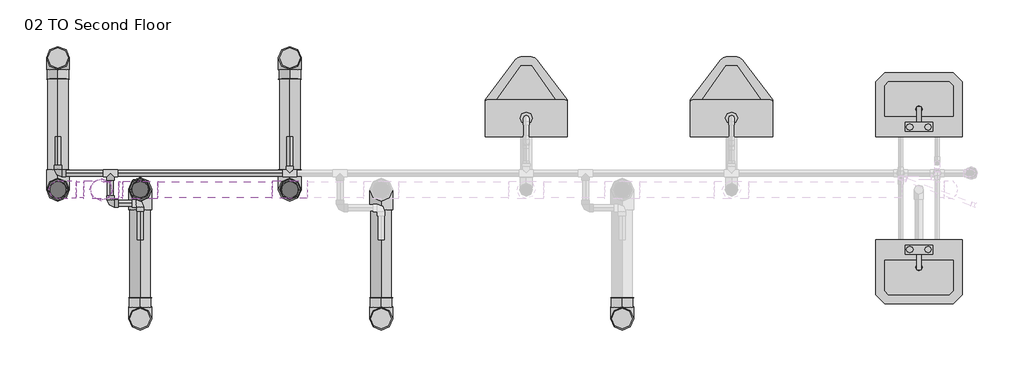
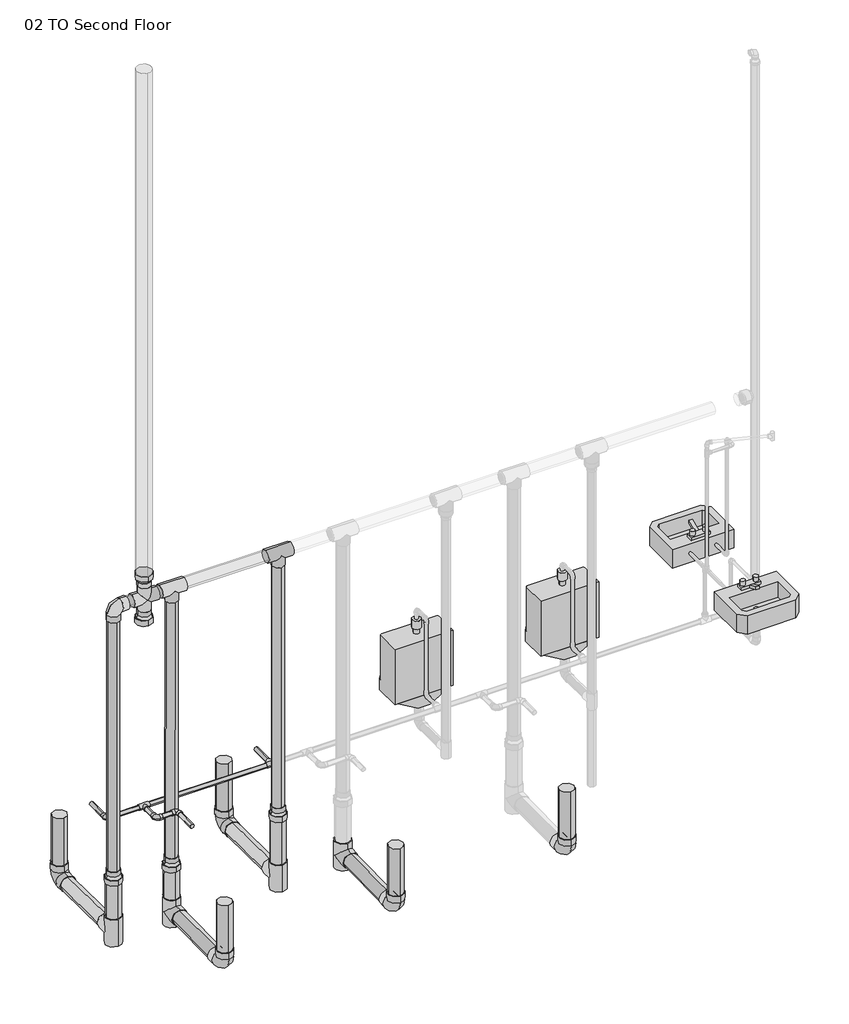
# One storey, part 1 of 3: 26 pipe segments, 23 pipe fittings, 4 flow terminals.
"""IFC4 building model written with IfcOpenShell, lengths in millimetres."""

from ifc_helpers import new_model, si_unit, point, frame, frame_2d, origin, place, context, project, spatial, circle_curve, trimmed, segment, composite_curve, outline, extrude, transform, mapped, element, save
from components import lavatory_wall_mounted_ac7d0257, urinal_wall_hung_30bb5849, cross_pvc_sch_40_standard_99b2fb3f, elbow_pvc_sch_40_standard_c47e97bb, elbow_pvc_sch_40_standard_3ccf74f3, elbow_pvc_sch_40_standard_517a5a8d, reducer_pvc_sch_40_dwv_standard_bc2808fd, tee_pvc_sch_40_standard_9cddf13a, tee_pvc_sch_40_standard_9261842d, tee_pvc_sch_40_standard_72b35c3b

model = new_model("IFC4")

# Units and contexts
model_context = context("Model", 3, world=origin())
ifc_project = project(units=[si_unit("LENGTHUNIT", "METRE", prefix="MILLI")], contexts=[model_context])

# Site, building, storey
site = spatial("IfcSite", under=ifc_project)
building = spatial("IfcBuilding", under=site)
storey = spatial("IfcBuildingStorey", under=building, Name="02 TO Second Floor", Elevation=4572.0)

# Flow terminals
placement = place(None, origin())
lavatory_wall_mounted_shape = lavatory_wall_mounted_ac7d0257(model_context)
element("IfcFlowTerminal", 1, ObjectType="Lavatory - Wall Mounted : D2010310_Lavatory_19\"x14\"Public", at=placement, inside=storey, context=model_context, shape_type="MappedRepresentation", body=[
    mapped(lavatory_wall_mounted_shape, transform((-12626.6118429, -4144.3703325, 5435.6), x_axis=(-1.0, 0.0, 0.0), y_axis=(0.0, 0.0, 1.0), z_axis=(0.0, 1.0, 0.0))),
])
element("IfcFlowTerminal", 2, ObjectType="Lavatory - Wall Mounted : D2010310_Lavatory_19\"x14\"Public", at=placement, inside=storey, context=model_context, shape_type="MappedRepresentation", body=[
    mapped(lavatory_wall_mounted_shape, transform((-12626.6118429, -4719.0453325, 5435.6), x_axis=(1.0, 0.0, 0.0), y_axis=(0.0, 0.0, 1.0), z_axis=(0.0, -1.0, 0.0))),
])
urinal_wall_hung_shape = urinal_wall_hung_30bb5849(model_context)
element("IfcFlowTerminal", 3, ObjectType="Urinal - Wall Hung : D2010210_Urinal_WallHung_3/4\" FlushValve", at=placement, inside=storey, context=model_context, shape_type="MappedRepresentation", body=[
    mapped(urinal_wall_hung_shape, transform((-14812.7542617, -4144.3703325, 5003.8), x_axis=(-1.0, 0.0, 0.0), y_axis=(0.0, 0.0, 1.0), z_axis=(0.0, 1.0, 0.0))),
])
element("IfcFlowTerminal", 4, ObjectType="Urinal - Wall Hung : D2010210_Urinal_WallHung_3/4\" FlushValve", at=placement, inside=storey, context=model_context, shape_type="MappedRepresentation", body=[
    mapped(urinal_wall_hung_shape, transform((-13669.7542617, -4144.3703325, 5003.8), x_axis=(-1.0, 0.0, 0.0), y_axis=(0.0, 0.0, 1.0), z_axis=(0.0, 1.0, 0.0))),
])

# Pipe fittings
cross_pvc_sch_40_standard_shape = cross_pvc_sch_40_standard_99b2fb3f(model_context)
element("IfcPipeFitting", 5, ObjectType="Cross - PVC - Sch 40 : Standard", at=placement, inside=storey, context=model_context, shape_type="MappedRepresentation", body=[
    mapped(cross_pvc_sch_40_standard_shape, transform((-17177.9687436, -4439.7857603, 6735.7752), x_axis=(0.0, 0.0, 1.0), y_axis=(1.0, 0.0, 0.0), z_axis=(0.0, 1.0, 0.0))),
])
elbow_pvc_sch_40_standard_shape = elbow_pvc_sch_40_standard_c47e97bb(model_context)
element("IfcPipeFitting", 6, ObjectType="Elbow - PVC - Sch 40 : Standard", at=placement, inside=storey, context=model_context, shape_type="MappedRepresentation", body=[
    mapped(elbow_pvc_sch_40_standard_shape, transform((-17418.6686686, -3706.2203325, 4064.0), x_axis=(0.0, 0.0, -1.0), y_axis=(0.0, -1.0, 0.0), z_axis=(-1.0, 0.0, 0.0))),
])
element("IfcPipeFitting", 7, ObjectType="Elbow - PVC - Sch 40 : Standard", at=placement, inside=storey, context=model_context, shape_type="MappedRepresentation", body=[
    mapped(elbow_pvc_sch_40_standard_shape, transform((-16128.0974824, -3706.2203325, 4064.0), x_axis=(0.0, 0.0, -1.0), y_axis=(0.0, -1.0, 0.0), z_axis=(-1.0, 0.0, 0.0))),
])
element("IfcPipeFitting", 8, ObjectType="Elbow - PVC - Sch 40 : Standard", at=placement, inside=storey, context=model_context, shape_type="MappedRepresentation", body=[
    mapped(elbow_pvc_sch_40_standard_shape, transform((-16961.4686686, -5157.1953325, 4064.0), x_axis=(0.0, 0.0, -1.0), y_axis=(0.0, 1.0, 0.0), z_axis=(1.0, 0.0, 0.0))),
])
element("IfcPipeFitting", 9, ObjectType="Elbow - PVC - Sch 40 : Standard", at=placement, inside=storey, context=model_context, shape_type="MappedRepresentation", body=[
    mapped(elbow_pvc_sch_40_standard_shape, transform((-15620.0974824, -5157.1953325, 4064.0), x_axis=(0.0, 0.0, -1.0), y_axis=(0.0, 1.0, 0.0), z_axis=(1.0, 0.0, 0.0))),
])
element("IfcPipeFitting", 10, ObjectType="Elbow - PVC - Sch 40 : Standard", at=placement, inside=storey, context=model_context, shape_type="MappedRepresentation", body=[
    mapped(elbow_pvc_sch_40_standard_shape, transform((-14278.7262962, -5157.1953325, 4064.0), x_axis=(0.0, 0.0, -1.0), y_axis=(0.0, 1.0, 0.0), z_axis=(1.0, 0.0, 0.0))),
])
elbow_pvc_sch_40_standard_2_shape = elbow_pvc_sch_40_standard_3ccf74f3(model_context)
element("IfcPipeFitting", 11, ObjectType="Elbow - PVC - Sch 40 : Standard", at=placement, inside=storey, context=model_context, shape_type="MappedRepresentation", body=[
    mapped(elbow_pvc_sch_40_standard_2_shape, transform((-17418.6686686, -4439.7857603, 6735.7752), x_axis=(-1.0, 0.0, 0.0), y_axis=(0.0, 0.0, -1.0), z_axis=(0.0, -1.0, 0.0))),
])
elbow_pvc_sch_40_standard_3_shape = elbow_pvc_sch_40_standard_517a5a8d(model_context)
element("IfcPipeFitting", 12, ObjectType="Elbow - PVC - Sch 40 : Standard", at=placement, inside=storey, context=model_context, shape_type="MappedRepresentation", body=[
    mapped(elbow_pvc_sch_40_standard_3_shape, transform((-17418.6686686, -4347.5703325, 4927.6), x_axis=(0.0, -1.0, 0.0), y_axis=(1.0, 0.0, 0.0), z_axis=(0.0, 0.0, 1.0))),
])
element("IfcPipeFitting", 13, ObjectType="Elbow - PVC - Sch 40 : Standard", at=placement, inside=storey, context=model_context, shape_type="MappedRepresentation", body=[
    mapped(elbow_pvc_sch_40_standard_3_shape, transform((-16961.4686686, -4515.8453325, 4927.6), x_axis=(0.0, 1.0, 0.0), y_axis=(-1.0, 0.0, 0.0), z_axis=(0.0, 0.0, 1.0))),
])
element("IfcPipeFitting", 14, ObjectType="Elbow - PVC - Sch 40 : Standard", at=placement, inside=storey, context=model_context, shape_type="MappedRepresentation", body=[
    mapped(elbow_pvc_sch_40_standard_3_shape, transform((-17126.5686686, -4515.8453325, 4927.6), x_axis=(0.0, -1.0, 0.0), y_axis=(1.0, 0.0, 0.0), z_axis=(0.0, 0.0, 1.0))),
])
reducer_pvc_sch_40_dwv_standard_shape = reducer_pvc_sch_40_dwv_standard_bc2808fd(model_context)
element("IfcPipeFitting", 15, ObjectType="Reducer - PVC - Sch 40 - DWV : Standard", at=placement, inside=storey, context=model_context, shape_type="MappedRepresentation", body=[
    mapped(reducer_pvc_sch_40_dwv_standard_shape, transform((-16128.0974824, -4439.7857603, 4644.7415065), x_axis=(0.0, 0.0, -1.0), y_axis=(1.0, 0.0, 0.0), z_axis=(0.0, -1.0, 0.0))),
])
element("IfcPipeFitting", 16, ObjectType="Reducer - PVC - Sch 40 - DWV : Standard", at=placement, inside=storey, context=model_context, shape_type="MappedRepresentation", body=[
    mapped(reducer_pvc_sch_40_dwv_standard_shape, transform((-17418.6686686, -4439.7857603, 4568.5415065), x_axis=(0.0, 0.0, -1.0), y_axis=(1.0, 0.0, 0.0), z_axis=(0.0, -1.0, 0.0))),
])
element("IfcPipeFitting", 17, ObjectType="Reducer - PVC - Sch 40 - DWV : Standard", at=placement, inside=storey, context=model_context, shape_type="MappedRepresentation", body=[
    mapped(reducer_pvc_sch_40_dwv_standard_shape, transform((-16961.4686686, -4436.2966246, 4517.5550443), x_axis=(0.0, 0.0015729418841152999, -0.9999987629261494), y_axis=(-1.0, 4.344944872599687e-12, 0.0), z_axis=(4.34495024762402e-12, 0.9999987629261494, 0.0015729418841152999))),
])
element("IfcPipeFitting", 18, ObjectType="Reducer - PVC - Sch 40 - DWV : Standard", at=placement, inside=storey, context=model_context, shape_type="MappedRepresentation", body=[
    mapped(reducer_pvc_sch_40_dwv_standard_shape, transform((-17177.9687436, -4439.7857603, 6637.9812312), x_axis=(0.0, 0.0, -1.0), y_axis=(-1.0, 0.0, 0.0), z_axis=(0.0, 1.0, 0.0))),
])
element("IfcPipeFitting", 19, ObjectType="Reducer - PVC - Sch 40 - DWV : Standard", at=placement, inside=storey, context=model_context, shape_type="MappedRepresentation", body=[
    mapped(reducer_pvc_sch_40_dwv_standard_shape, transform((-17177.9687436, -4439.7857603, 6833.5691687), x_axis=(0.0, 0.0, 1.0), y_axis=(1.0, 0.0, 0.0), z_axis=(0.0, 1.0, 0.0))),
])
tee_pvc_sch_40_standard_shape = tee_pvc_sch_40_standard_9cddf13a(model_context)
element("IfcPipeFitting", 20, ObjectType="Tee - PVC - Sch 40 : Standard", at=placement, inside=storey, context=model_context, shape_type="MappedRepresentation", body=[
    mapped(tee_pvc_sch_40_standard_shape, transform((-17418.6686686, -4439.7857603, 4071.6413065), x_axis=(0.0, 0.0, 1.0), y_axis=(0.0, -1.0, 0.0), z_axis=(1.0, 0.0, 0.0))),
])
element("IfcPipeFitting", 21, ObjectType="Tee - PVC - Sch 40 : Standard", at=placement, inside=storey, context=model_context, shape_type="MappedRepresentation", body=[
    mapped(tee_pvc_sch_40_standard_shape, transform((-16128.0974824, -4439.7857603, 4071.6413065), x_axis=(0.0, 0.0, 1.0), y_axis=(0.0, -1.0, 0.0), z_axis=(1.0, 0.0, 0.0))),
])
element("IfcPipeFitting", 22, ObjectType="Tee - PVC - Sch 40 : Standard", at=placement, inside=storey, context=model_context, shape_type="MappedRepresentation", body=[
    mapped(tee_pvc_sch_40_standard_shape, transform((-16961.4686686, -4439.7857603, 4071.4730164), x_axis=(0.0, 0.0, 1.0), y_axis=(0.0, 1.0, 0.0), z_axis=(-1.0, 0.0, 0.0))),
])
element("IfcPipeFitting", 23, ObjectType="Tee - PVC - Sch 40 : Standard", at=placement, inside=storey, context=model_context, shape_type="MappedRepresentation", body=[
    mapped(tee_pvc_sch_40_standard_shape, transform((-15620.0974824, -4439.7857603, 4071.4730164), x_axis=(0.0, 0.0, 1.0), y_axis=(0.0, 1.0, 0.0), z_axis=(-1.0, 0.0, 0.0))),
])
tee_pvc_sch_40_standard_2_shape = tee_pvc_sch_40_standard_9261842d(model_context)
element("IfcPipeFitting", 24, ObjectType="Tee - PVC - Sch 40 : Standard", at=placement, inside=storey, context=model_context, shape_type="MappedRepresentation", body=[
    mapped(tee_pvc_sch_40_standard_2_shape, transform((-16128.0974824, -4439.7857603, 6735.7752), x_axis=(1.0, 0.0, 0.0), y_axis=(0.0, 0.0, 1.0), z_axis=(0.0, -1.0, 0.0))),
])
element("IfcPipeFitting", 25, ObjectType="Tee - PVC - Sch 40 : Standard", at=placement, inside=storey, context=model_context, shape_type="MappedRepresentation", body=[
    mapped(tee_pvc_sch_40_standard_2_shape, transform((-16961.4686686, -4439.7857603, 6735.7752), x_axis=(-1.0, 0.0, 0.0), y_axis=(0.0, -0.0015729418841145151, 0.9999987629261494), z_axis=(0.0, 0.9999987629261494, 0.0015729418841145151))),
])
tee_pvc_sch_40_standard_3_shape = tee_pvc_sch_40_standard_72b35c3b(model_context)
element("IfcPipeFitting", 26, ObjectType="Tee - PVC - Sch 40 : Standard", at=placement, inside=storey, context=model_context, shape_type="MappedRepresentation", body=[
    mapped(tee_pvc_sch_40_standard_3_shape, transform((-17126.5686686, -4347.5703325, 4927.6), x_axis=(-1.0, 0.0, 0.0), y_axis=(0.0, 1.0, 0.0), z_axis=(0.0, 0.0, -1.0))),
])
element("IfcPipeFitting", 27, ObjectType="Tee - PVC - Sch 40 : Standard", at=placement, inside=storey, context=model_context, shape_type="MappedRepresentation", body=[
    mapped(tee_pvc_sch_40_standard_3_shape, transform((-16128.0974824, -4347.5703325, 4927.6), x_axis=(-1.0, 0.0, 0.0), y_axis=(0.0, -1.0, 0.0), z_axis=(0.0, 0.0, 1.0))),
])

# Pipe segments
element("IfcPipeSegment", 28, ObjectType="Standard", at=placement, inside=storey, context=model_context, shape_type="SweptSolid", body=[
    extrude(outline(composite_curve([segment(trimmed(circle_curve(frame_2d((-17418.6686686, -3706.2203325)), 57.15), [point((-17361.5186686, -3706.2203325))], [point((-17418.6686686, -3763.3703325))], False, "CARTESIAN"), True, "CONTINUOUS"), segment(trimmed(circle_curve(frame_2d((-17418.6686686, -3706.2203325)), 57.15), [point((-17418.6686686, -3763.3703325))], [point((-17475.8186686, -3706.2203325))], False, "CARTESIAN"), True, "CONTINUOUS"), segment(trimmed(circle_curve(frame_2d((-17418.6686686, -3706.2203325)), 57.15), [point((-17475.8186686, -3706.2203325))], [point((-17418.6686686, -3649.0703325))], False, "CARTESIAN"), True, "CONTINUOUS"), segment(trimmed(circle_curve(frame_2d((-17418.6686686, -3706.2203325)), 57.15), [point((-17418.6686686, -3649.0703325))], [point((-17361.5186686, -3706.2203325))], False, "CARTESIAN"), True, "CONTINUOUS")], self_intersect=False)), frame((0.0, 0.0, 4181.3671646), z_axis=(0.0, 0.0, 1.0), x_axis=(1.0, 0.0, 0.0)), (0.0, 0.0, 1.0), 390.6328354),
])
element("IfcPipeSegment", 29, ObjectType="Standard", at=placement, inside=storey, context=model_context, shape_type="SweptSolid", body=[
    extrude(outline(composite_curve([segment(trimmed(circle_curve(frame_2d((0.0, -57.15)), 57.15), [point((57.15, -57.15))], [point((0.0, -114.3000001))], False, "CARTESIAN"), True, "CONTINUOUS"), segment(trimmed(circle_curve(frame_2d((0.0, -57.15)), 57.15), [point((0.0, -114.3000001))], [point((-57.15, -57.15))], False, "CARTESIAN"), True, "CONTINUOUS"), segment(trimmed(circle_curve(frame_2d((0.0, -57.15)), 57.15), [point((-57.15, -57.15))], [point((0.0, 0.0))], False, "CARTESIAN"), True, "CONTINUOUS"), segment(trimmed(circle_curve(frame_2d((0.0, -57.15)), 57.15), [point((0.0, 0.0))], [point((57.15, -57.15))], False, "CARTESIAN"), True, "CONTINUOUS")], self_intersect=False)), frame((-17418.6686686, -3822.9858499, 4122.369408), z_axis=(0.0, -0.9999457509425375, 0.010416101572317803), x_axis=(1.0, 0.0, 0.0)), (0.0, 0.0, 1.0), 505.1130605),
])
element("IfcPipeSegment", 30, ObjectType="Standard", at=placement, inside=storey, context=model_context, shape_type="SweptSolid", body=[
    extrude(outline(composite_curve([segment(trimmed(circle_curve(frame_2d((-17418.6686686, -4439.7857603)), 57.15), [point((-17475.8186686, -4439.7857603))], [point((-17418.6686686, -4382.6357603))], False, "CARTESIAN"), True, "CONTINUOUS"), segment(trimmed(circle_curve(frame_2d((-17418.6686686, -4439.7857603)), 57.15), [point((-17418.6686686, -4382.6357603))], [point((-17361.5186686, -4439.7857603))], False, "CARTESIAN"), True, "CONTINUOUS"), segment(trimmed(circle_curve(frame_2d((-17418.6686686, -4439.7857603)), 57.15), [point((-17361.5186686, -4439.7857603))], [point((-17418.6686686, -4496.9357603))], False, "CARTESIAN"), True, "CONTINUOUS"), segment(trimmed(circle_curve(frame_2d((-17418.6686686, -4439.7857603)), 57.15), [point((-17418.6686686, -4496.9357603))], [point((-17475.8186686, -4439.7857603))], False, "CARTESIAN"), True, "CONTINUOUS")], self_intersect=False)), frame((0.0, 0.0, 4182.7663065), z_axis=(0.0, 0.0, 1.0), x_axis=(1.0, 0.0, 0.0)), (0.0, 0.0, 1.0), 279.4),
])
element("IfcPipeSegment", 31, ObjectType="Standard", at=placement, inside=storey, context=model_context, shape_type="SweptSolid", body=[
    extrude(outline(composite_curve([segment(trimmed(circle_curve(frame_2d((-16128.0974824, -3706.2203325)), 57.15), [point((-16070.9474824, -3706.2203325))], [point((-16128.0974824, -3763.3703325))], False, "CARTESIAN"), True, "CONTINUOUS"), segment(trimmed(circle_curve(frame_2d((-16128.0974824, -3706.2203325)), 57.15), [point((-16128.0974824, -3763.3703325))], [point((-16185.2474824, -3706.2203325))], False, "CARTESIAN"), True, "CONTINUOUS"), segment(trimmed(circle_curve(frame_2d((-16128.0974824, -3706.2203325)), 57.15), [point((-16185.2474824, -3706.2203325))], [point((-16128.0974824, -3649.0703325))], False, "CARTESIAN"), True, "CONTINUOUS"), segment(trimmed(circle_curve(frame_2d((-16128.0974824, -3706.2203325)), 57.15), [point((-16128.0974824, -3649.0703325))], [point((-16070.9474824, -3706.2203325))], False, "CARTESIAN"), True, "CONTINUOUS")], self_intersect=False)), frame((0.0, 0.0, 4181.3671646), z_axis=(0.0, 0.0, 1.0), x_axis=(1.0, 0.0, 0.0)), (0.0, 0.0, 1.0), 390.6328354),
])
element("IfcPipeSegment", 32, ObjectType="Standard", at=placement, inside=storey, context=model_context, shape_type="SweptSolid", body=[
    extrude(outline(composite_curve([segment(trimmed(circle_curve(frame_2d((0.0, -57.15)), 57.15), [point((57.15, -57.15))], [point((0.0, -114.3000001))], False, "CARTESIAN"), True, "CONTINUOUS"), segment(trimmed(circle_curve(frame_2d((0.0, -57.15)), 57.15), [point((0.0, -114.3000001))], [point((-57.15, -57.15))], False, "CARTESIAN"), True, "CONTINUOUS"), segment(trimmed(circle_curve(frame_2d((0.0, -57.15)), 57.15), [point((-57.15, -57.15))], [point((0.0, 0.0))], False, "CARTESIAN"), True, "CONTINUOUS"), segment(trimmed(circle_curve(frame_2d((0.0, -57.15)), 57.15), [point((0.0, 0.0))], [point((57.15, -57.15))], False, "CARTESIAN"), True, "CONTINUOUS")], self_intersect=False)), frame((-16128.0974824, -3822.9858499, 4122.369408), z_axis=(0.0, -0.999945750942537, 0.010416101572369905), x_axis=(1.0, 0.0, 0.0)), (0.0, 0.0, 1.0), 505.1130605),
])
element("IfcPipeSegment", 33, ObjectType="Standard", at=placement, inside=storey, context=model_context, shape_type="SweptSolid", body=[
    extrude(outline(composite_curve([segment(trimmed(circle_curve(frame_2d((-16128.0974824, -4439.7857603)), 57.15), [point((-16185.2474824, -4439.7857603))], [point((-16128.0974824, -4382.6357603))], False, "CARTESIAN"), True, "CONTINUOUS"), segment(trimmed(circle_curve(frame_2d((-16128.0974824, -4439.7857603)), 57.15), [point((-16128.0974824, -4382.6357603))], [point((-16070.9474824, -4439.7857603))], False, "CARTESIAN"), True, "CONTINUOUS"), segment(trimmed(circle_curve(frame_2d((-16128.0974824, -4439.7857603)), 57.15), [point((-16070.9474824, -4439.7857603))], [point((-16128.0974824, -4496.9357603))], False, "CARTESIAN"), True, "CONTINUOUS"), segment(trimmed(circle_curve(frame_2d((-16128.0974824, -4439.7857603)), 57.15), [point((-16128.0974824, -4496.9357603))], [point((-16185.2474824, -4439.7857603))], False, "CARTESIAN"), True, "CONTINUOUS")], self_intersect=False)), frame((0.0, 0.0, 4182.7663065), z_axis=(0.0, 0.0, 1.0), x_axis=(1.0, 0.0, 0.0)), (0.0, 0.0, 1.0), 355.6),
])
element("IfcPipeSegment", 34, ObjectType="Standard", at=placement, inside=storey, context=model_context, shape_type="SweptSolid", body=[
    extrude(outline(composite_curve([segment(trimmed(circle_curve(frame_2d((-16961.4686686, -5157.1953325)), 57.15), [point((-16904.3186686, -5157.1953325))], [point((-16961.4686686, -5214.3453325))], False, "CARTESIAN"), True, "CONTINUOUS"), segment(trimmed(circle_curve(frame_2d((-16961.4686686, -5157.1953325)), 57.15), [point((-16961.4686686, -5214.3453325))], [point((-17018.6186686, -5157.1953325))], False, "CARTESIAN"), True, "CONTINUOUS"), segment(trimmed(circle_curve(frame_2d((-16961.4686686, -5157.1953325)), 57.15), [point((-17018.6186686, -5157.1953325))], [point((-16961.4686686, -5100.0453325))], False, "CARTESIAN"), True, "CONTINUOUS"), segment(trimmed(circle_curve(frame_2d((-16961.4686686, -5157.1953325)), 57.15), [point((-16961.4686686, -5100.0453325))], [point((-16904.3186686, -5157.1953325))], False, "CARTESIAN"), True, "CONTINUOUS")], self_intersect=False)), frame((0.0, 0.0, 4181.3671646), z_axis=(0.0, 0.0, 1.0), x_axis=(1.0, 0.0, 0.0)), (0.0, 0.0, 1.0), 390.6328354),
])
element("IfcPipeSegment", 35, ObjectType="Standard", at=placement, inside=storey, context=model_context, shape_type="SweptSolid", body=[
    extrude(outline(composite_curve([segment(trimmed(circle_curve(frame_2d((0.0, -57.15)), 57.15), [point((-57.15, -57.15))], [point((0.0, 0.0))], False, "CARTESIAN"), True, "CONTINUOUS"), segment(trimmed(circle_curve(frame_2d((0.0, -57.15)), 57.15), [point((0.0, 0.0))], [point((57.15, -57.15))], False, "CARTESIAN"), True, "CONTINUOUS"), segment(trimmed(circle_curve(frame_2d((0.0, -57.15)), 57.15), [point((57.15, -57.15))], [point((0.0, -114.3000001))], False, "CARTESIAN"), True, "CONTINUOUS"), segment(trimmed(circle_curve(frame_2d((0.0, -57.15)), 57.15), [point((0.0, -114.3000001))], [point((-57.15, -57.15))], False, "CARTESIAN"), True, "CONTINUOUS")], self_intersect=False)), frame((-16961.4686686, -5039.2392547, 4008.0756086), z_axis=(0.0, 0.999945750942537, 0.010416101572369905), x_axis=(1.0, 0.0, 0.0)), (0.0, 0.0, 1.0), 488.9563285),
])
element("IfcPipeSegment", 36, ObjectType="Standard", at=placement, inside=storey, context=model_context, shape_type="SweptSolid", body=[
    extrude(outline(composite_curve([segment(trimmed(circle_curve(frame_2d((-15620.0974824, -5157.1953325)), 57.15), [point((-15562.9474824, -5157.1953325))], [point((-15620.0974824, -5214.3453325))], False, "CARTESIAN"), True, "CONTINUOUS"), segment(trimmed(circle_curve(frame_2d((-15620.0974824, -5157.1953325)), 57.15), [point((-15620.0974824, -5214.3453325))], [point((-15677.2474824, -5157.1953325))], False, "CARTESIAN"), True, "CONTINUOUS"), segment(trimmed(circle_curve(frame_2d((-15620.0974824, -5157.1953325)), 57.15), [point((-15677.2474824, -5157.1953325))], [point((-15620.0974824, -5100.0453325))], False, "CARTESIAN"), True, "CONTINUOUS"), segment(trimmed(circle_curve(frame_2d((-15620.0974824, -5157.1953325)), 57.15), [point((-15620.0974824, -5100.0453325))], [point((-15562.9474824, -5157.1953325))], False, "CARTESIAN"), True, "CONTINUOUS")], self_intersect=False)), frame((0.0, 0.0, 4181.3671646), z_axis=(0.0, 0.0, 1.0), x_axis=(1.0, 0.0, 0.0)), (0.0, 0.0, 1.0), 390.6328354),
])
element("IfcPipeSegment", 37, ObjectType="Standard", at=placement, inside=storey, context=model_context, shape_type="SweptSolid", body=[
    extrude(outline(composite_curve([segment(trimmed(circle_curve(frame_2d((0.0, -57.15)), 57.15), [point((-57.15, -57.15))], [point((0.0, 0.0))], False, "CARTESIAN"), True, "CONTINUOUS"), segment(trimmed(circle_curve(frame_2d((0.0, -57.15)), 57.15), [point((0.0, 0.0))], [point((57.15, -57.15))], False, "CARTESIAN"), True, "CONTINUOUS"), segment(trimmed(circle_curve(frame_2d((0.0, -57.15)), 57.15), [point((57.15, -57.15))], [point((0.0, -114.3000001))], False, "CARTESIAN"), True, "CONTINUOUS"), segment(trimmed(circle_curve(frame_2d((0.0, -57.15)), 57.15), [point((0.0, -114.3000001))], [point((-57.15, -57.15))], False, "CARTESIAN"), True, "CONTINUOUS")], self_intersect=False)), frame((-15620.0974824, -5039.2392547, 4008.0756086), z_axis=(0.0, 0.999945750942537, 0.010416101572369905), x_axis=(1.0, 0.0, 0.0)), (0.0, 0.0, 1.0), 488.9563285),
])
element("IfcPipeSegment", 38, ObjectType="Standard", at=placement, inside=storey, context=model_context, shape_type="SweptSolid", body=[
    extrude(outline(composite_curve([segment(trimmed(circle_curve(frame_2d((-14278.7262962, -5157.1953325)), 57.15), [point((-14221.5762962, -5157.1953325))], [point((-14278.7262962, -5214.3453325))], False, "CARTESIAN"), True, "CONTINUOUS"), segment(trimmed(circle_curve(frame_2d((-14278.7262962, -5157.1953325)), 57.15), [point((-14278.7262962, -5214.3453325))], [point((-14335.8762962, -5157.1953325))], False, "CARTESIAN"), True, "CONTINUOUS"), segment(trimmed(circle_curve(frame_2d((-14278.7262962, -5157.1953325)), 57.15), [point((-14335.8762962, -5157.1953325))], [point((-14278.7262962, -5100.0453325))], False, "CARTESIAN"), True, "CONTINUOUS"), segment(trimmed(circle_curve(frame_2d((-14278.7262962, -5157.1953325)), 57.15), [point((-14278.7262962, -5100.0453325))], [point((-14221.5762962, -5157.1953325))], False, "CARTESIAN"), True, "CONTINUOUS")], self_intersect=False)), frame((0.0, 0.0, 4181.3671646), z_axis=(0.0, 0.0, 1.0), x_axis=(1.0, 0.0, 0.0)), (0.0, 0.0, 1.0), 390.6328354),
])
element("IfcPipeSegment", 39, ObjectType="Standard", at=placement, inside=storey, context=model_context, shape_type="SweptSolid", body=[
    extrude(outline(composite_curve([segment(trimmed(circle_curve(frame_2d((0.0, 57.15)), 57.15), [point((57.15, 57.15))], [point((0.0, 0.0))], False, "CARTESIAN"), True, "CONTINUOUS"), segment(trimmed(circle_curve(frame_2d((0.0, 57.15)), 57.15), [point((0.0, 0.0))], [point((-57.15, 57.15))], False, "CARTESIAN"), True, "CONTINUOUS"), segment(trimmed(circle_curve(frame_2d((0.0, 57.15)), 57.15), [point((-57.15, 57.15))], [point((0.0, 114.3))], False, "CARTESIAN"), True, "CONTINUOUS"), segment(trimmed(circle_curve(frame_2d((0.0, 57.15)), 57.15), [point((0.0, 114.3))], [point((57.15, 57.15))], False, "CARTESIAN"), True, "CONTINUOUS")], self_intersect=False)), frame((-16961.4686686, -4496.9284499, 4183.512086), z_axis=(0.0, 0.015994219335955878, 0.9998720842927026), x_axis=(1.0, 0.0, 0.0)), (0.0, 0.0, 1.0), 228.6112025),
])
element("IfcPipeSegment", 40, ObjectType="Standard", at=placement, inside=storey, context=model_context, shape_type="SweptSolid", body=[
    extrude(outline(composite_curve([segment(trimmed(circle_curve(frame_2d((-17418.6686686, -4439.7857603)), 44.45), [point((-17374.2186686, -4439.7857603))], [point((-17418.6686686, -4484.2357603))], False, "CARTESIAN"), True, "CONTINUOUS"), segment(trimmed(circle_curve(frame_2d((-17418.6686686, -4439.7857603)), 44.45), [point((-17418.6686686, -4484.2357603))], [point((-17463.1186686, -4439.7857603))], False, "CARTESIAN"), True, "CONTINUOUS"), segment(trimmed(circle_curve(frame_2d((-17418.6686686, -4439.7857603)), 44.45), [point((-17463.1186686, -4439.7857603))], [point((-17418.6686686, -4395.3357603))], False, "CARTESIAN"), True, "CONTINUOUS"), segment(trimmed(circle_curve(frame_2d((-17418.6686686, -4439.7857603)), 44.45), [point((-17418.6686686, -4395.3357603))], [point((-17374.2186686, -4439.7857603))], False, "CARTESIAN"), True, "CONTINUOUS")], self_intersect=False)), frame((0.0, 0.0, 4568.5415065), z_axis=(0.0, 0.0, 1.0), x_axis=(1.0, 0.0, 0.0)), (0.0, 0.0, 1.0), 2065.2336435),
])
element("IfcPipeSegment", 41, ObjectType="Standard", at=placement, inside=storey, context=model_context, shape_type="SweptSolid", body=[
    extrude(outline(composite_curve([segment(trimmed(circle_curve(frame_2d((-16128.0974824, -4439.7857603)), 44.45), [point((-16083.6474824, -4439.7857603))], [point((-16128.0974824, -4484.2357603))], False, "CARTESIAN"), True, "CONTINUOUS"), segment(trimmed(circle_curve(frame_2d((-16128.0974824, -4439.7857603)), 44.45), [point((-16128.0974824, -4484.2357603))], [point((-16172.5474824, -4439.7857603))], False, "CARTESIAN"), True, "CONTINUOUS"), segment(trimmed(circle_curve(frame_2d((-16128.0974824, -4439.7857603)), 44.45), [point((-16172.5474824, -4439.7857603))], [point((-16128.0974824, -4395.3357603))], False, "CARTESIAN"), True, "CONTINUOUS"), segment(trimmed(circle_curve(frame_2d((-16128.0974824, -4439.7857603)), 44.45), [point((-16128.0974824, -4395.3357603))], [point((-16083.6474824, -4439.7857603))], False, "CARTESIAN"), True, "CONTINUOUS")], self_intersect=False)), frame((0.0, 0.0, 4644.7415065), z_axis=(0.0, 0.0, 1.0), x_axis=(1.0, 0.0, 0.0)), (0.0, 0.0, 1.0), 1994.1834935),
])
element("IfcPipeSegment", 42, ObjectType="Standard", at=placement, inside=storey, context=model_context, shape_type="SweptSolid", body=[
    extrude(outline(composite_curve([segment(trimmed(circle_curve(frame_2d((0.0, -44.45)), 44.45), [point((-44.45, -44.45))], [point((0.0, 0.0))], False, "CARTESIAN"), True, "CONTINUOUS"), segment(trimmed(circle_curve(frame_2d((0.0, -44.45)), 44.45), [point((0.0, 0.0))], [point((44.45, -44.45))], False, "CARTESIAN"), True, "CONTINUOUS"), segment(trimmed(circle_curve(frame_2d((0.0, -44.45)), 44.45), [point((44.45, -44.45))], [point((0.0, -88.9))], False, "CARTESIAN"), True, "CONTINUOUS"), segment(trimmed(circle_curve(frame_2d((0.0, -44.45)), 44.45), [point((0.0, -88.9))], [point((-44.45, -44.45))], False, "CARTESIAN"), True, "CONTINUOUS")], self_intersect=False)), frame((-16961.4686686, -4480.7465696, 4517.485127), z_axis=(0.0, -0.001572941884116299, 0.9999987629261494), x_axis=(-1.0, 0.0, 0.0)), (0.0, 0.0, 1.0), 2121.3726998),
])
element("IfcPipeSegment", 43, ObjectType="Standard", at=placement, inside=storey, context=model_context, shape_type="SweptSolid", body=[
    extrude(outline(composite_curve([segment(trimmed(circle_curve(frame_2d((-4439.7857603, 6735.7752)), 44.45), [point((-4395.3357603, 6735.7752))], [point((-4439.7857603, 6691.3252))], False, "CARTESIAN"), True, "CONTINUOUS"), segment(trimmed(circle_curve(frame_2d((-4439.7857603, 6735.7752)), 44.45), [point((-4439.7857603, 6691.3252))], [point((-4484.2357603, 6735.7752))], False, "CARTESIAN"), True, "CONTINUOUS"), segment(trimmed(circle_curve(frame_2d((-4439.7857603, 6735.7752)), 44.45), [point((-4484.2357603, 6735.7752))], [point((-4439.7857603, 6780.2252))], False, "CARTESIAN"), True, "CONTINUOUS"), segment(trimmed(circle_curve(frame_2d((-4439.7857603, 6735.7752)), 44.45), [point((-4439.7857603, 6780.2252))], [point((-4395.3357603, 6735.7752))], False, "CARTESIAN"), True, "CONTINUOUS")], self_intersect=False)), frame((-16864.6184686, 0.0, 0.0), z_axis=(1.0, 0.0, 0.0), x_axis=(0.0, 1.0, 0.0)), (0.0, 0.0, 1.0), 639.6707862),
])
element("IfcPipeSegment", 44, ObjectType="Standard", at=placement, inside=storey, context=model_context, shape_type="SweptSolid", body=[
    extrude(outline(composite_curve([segment(trimmed(circle_curve(frame_2d((4927.6, -17418.6686686)), 16.66875), [point((4927.6, -17435.3374186))], [point((4910.93125, -17418.6686686))], False, "CARTESIAN"), True, "CONTINUOUS"), segment(trimmed(circle_curve(frame_2d((4927.6, -17418.6686686)), 16.66875), [point((4910.93125, -17418.6686686))], [point((4927.6, -17401.9999186))], False, "CARTESIAN"), True, "CONTINUOUS"), segment(trimmed(circle_curve(frame_2d((4927.6, -17418.6686686)), 16.66875), [point((4927.6, -17401.9999186))], [point((4944.26875, -17418.6686686))], False, "CARTESIAN"), True, "CONTINUOUS"), segment(trimmed(circle_curve(frame_2d((4927.6, -17418.6686686)), 16.66875), [point((4944.26875, -17418.6686686))], [point((4927.6, -17435.3374186))], False, "CARTESIAN"), True, "CONTINUOUS")], self_intersect=False)), frame((0.0, -4304.3077825, 0.0), z_axis=(0.0, 1.0, 0.0), x_axis=(0.0, 0.0, 1.0)), (0.0, 0.0, 1.0), 159.93745),
])
element("IfcPipeSegment", 45, ObjectType="Standard", at=placement, inside=storey, context=model_context, shape_type="SweptSolid", body=[
    extrude(outline(composite_curve([segment(trimmed(circle_curve(frame_2d((4927.6, -16961.4686686)), 16.66875), [point((4927.6, -16944.7999186))], [point((4944.26875, -16961.4686686))], False, "CARTESIAN"), True, "CONTINUOUS"), segment(trimmed(circle_curve(frame_2d((4927.6, -16961.4686686)), 16.66875), [point((4944.26875, -16961.4686686))], [point((4927.6, -16978.1374186))], False, "CARTESIAN"), True, "CONTINUOUS"), segment(trimmed(circle_curve(frame_2d((4927.6, -16961.4686686)), 16.66875), [point((4927.6, -16978.1374186))], [point((4910.93125, -16961.4686686))], False, "CARTESIAN"), True, "CONTINUOUS"), segment(trimmed(circle_curve(frame_2d((4927.6, -16961.4686686)), 16.66875), [point((4910.93125, -16961.4686686))], [point((4927.6, -16944.7999186))], False, "CARTESIAN"), True, "CONTINUOUS")], self_intersect=False)), frame((0.0, -4719.0453325, 0.0), z_axis=(0.0, 1.0, 0.0), x_axis=(0.0, 0.0, 1.0)), (0.0, 0.0, 1.0), 159.93745),
])
element("IfcPipeSegment", 46, ObjectType="Standard", at=placement, inside=storey, context=model_context, shape_type="SweptSolid", body=[
    extrude(outline(composite_curve([segment(trimmed(circle_curve(frame_2d((-4515.8453325, 4927.6)), 16.66875), [point((-4499.1765825, 4927.6))], [point((-4515.8453325, 4910.93125))], False, "CARTESIAN"), True, "CONTINUOUS"), segment(trimmed(circle_curve(frame_2d((-4515.8453325, 4927.6)), 16.66875), [point((-4515.8453325, 4910.93125))], [point((-4532.5140825, 4927.6))], False, "CARTESIAN"), True, "CONTINUOUS"), segment(trimmed(circle_curve(frame_2d((-4515.8453325, 4927.6)), 16.66875), [point((-4532.5140825, 4927.6))], [point((-4515.8453325, 4944.26875))], False, "CARTESIAN"), True, "CONTINUOUS"), segment(trimmed(circle_curve(frame_2d((-4515.8453325, 4927.6)), 16.66875), [point((-4515.8453325, 4944.26875))], [point((-4499.1765825, 4927.6))], False, "CARTESIAN"), True, "CONTINUOUS")], self_intersect=False)), frame((-17083.3061186, 0.0, 0.0), z_axis=(1.0, 0.0, 0.0), x_axis=(0.0, 1.0, 0.0)), (0.0, 0.0, 1.0), 78.5749),
])
element("IfcPipeSegment", 47, ObjectType="Standard", at=placement, inside=storey, context=model_context, shape_type="SweptSolid", body=[
    extrude(outline(composite_curve([segment(trimmed(circle_curve(frame_2d((4927.6, -17126.5686686)), 16.66875), [point((4927.6, -17109.8999186))], [point((4944.26875, -17126.5686686))], False, "CARTESIAN"), True, "CONTINUOUS"), segment(trimmed(circle_curve(frame_2d((4927.6, -17126.5686686)), 16.66875), [point((4944.26875, -17126.5686686))], [point((4927.6, -17143.2374186))], False, "CARTESIAN"), True, "CONTINUOUS"), segment(trimmed(circle_curve(frame_2d((4927.6, -17126.5686686)), 16.66875), [point((4927.6, -17143.2374186))], [point((4910.93125, -17126.5686686))], False, "CARTESIAN"), True, "CONTINUOUS"), segment(trimmed(circle_curve(frame_2d((4927.6, -17126.5686686)), 16.66875), [point((4910.93125, -17126.5686686))], [point((4927.6, -17109.8999186))], False, "CARTESIAN"), True, "CONTINUOUS")], self_intersect=False)), frame((0.0, -4472.5827825, 0.0), z_axis=(0.0, 1.0, 0.0), x_axis=(0.0, 0.0, 1.0)), (0.0, 0.0, 1.0), 85.31225),
])
element("IfcPipeSegment", 48, ObjectType="Standard", at=placement, inside=storey, context=model_context, shape_type="SweptSolid", body=[
    extrude(outline(composite_curve([segment(trimmed(circle_curve(frame_2d((-4347.5703325, 4927.6)), 16.66875), [point((-4364.2390825, 4927.6))], [point((-4347.5703325, 4944.26875))], False, "CARTESIAN"), True, "CONTINUOUS"), segment(trimmed(circle_curve(frame_2d((-4347.5703325, 4927.6)), 16.66875), [point((-4347.5703325, 4944.26875))], [point((-4330.9015825, 4927.6))], False, "CARTESIAN"), True, "CONTINUOUS"), segment(trimmed(circle_curve(frame_2d((-4347.5703325, 4927.6)), 16.66875), [point((-4330.9015825, 4927.6))], [point((-4347.5703325, 4910.93125))], False, "CARTESIAN"), True, "CONTINUOUS"), segment(trimmed(circle_curve(frame_2d((-4347.5703325, 4927.6)), 16.66875), [point((-4347.5703325, 4910.93125))], [point((-4364.2390825, 4927.6))], False, "CARTESIAN"), True, "CONTINUOUS")], self_intersect=False)), frame((-17375.4061186, 0.0, 0.0), z_axis=(1.0, 0.0, 0.0), x_axis=(0.0, 1.0, 0.0)), (0.0, 0.0, 1.0), 209.13725),
])
element("IfcPipeSegment", 49, ObjectType="Standard", at=placement, inside=storey, context=model_context, shape_type="SweptSolid", body=[
    extrude(outline(composite_curve([segment(trimmed(circle_curve(frame_2d((4927.6, -16128.0974824)), 16.66875), [point((4927.6, -16144.7662324))], [point((4910.93125, -16128.0974824))], False, "CARTESIAN"), True, "CONTINUOUS"), segment(trimmed(circle_curve(frame_2d((4927.6, -16128.0974824)), 16.66875), [point((4910.93125, -16128.0974824))], [point((4927.6, -16111.4287324))], False, "CARTESIAN"), True, "CONTINUOUS"), segment(trimmed(circle_curve(frame_2d((4927.6, -16128.0974824)), 16.66875), [point((4927.6, -16111.4287324))], [point((4944.26875, -16128.0974824))], False, "CARTESIAN"), True, "CONTINUOUS"), segment(trimmed(circle_curve(frame_2d((4927.6, -16128.0974824)), 16.66875), [point((4944.26875, -16128.0974824))], [point((4927.6, -16144.7662324))], False, "CARTESIAN"), True, "CONTINUOUS")], self_intersect=False)), frame((0.0, -4307.8701325, 0.0), z_axis=(0.0, 1.0, 0.0), x_axis=(0.0, 0.0, 1.0)), (0.0, 0.0, 1.0), 163.4998),
])
element("IfcPipeSegment", 50, ObjectType="Standard", at=placement, inside=storey, context=model_context, shape_type="SweptSolid", body=[
    extrude(outline(composite_curve([segment(trimmed(circle_curve(frame_2d((-4347.5703325, 4927.6)), 16.66875), [point((-4364.2390825, 4927.6))], [point((-4347.5703325, 4944.26875))], False, "CARTESIAN"), True, "CONTINUOUS"), segment(trimmed(circle_curve(frame_2d((-4347.5703325, 4927.6)), 16.66875), [point((-4347.5703325, 4944.26875))], [point((-4330.9015825, 4927.6))], False, "CARTESIAN"), True, "CONTINUOUS"), segment(trimmed(circle_curve(frame_2d((-4347.5703325, 4927.6)), 16.66875), [point((-4330.9015825, 4927.6))], [point((-4347.5703325, 4910.93125))], False, "CARTESIAN"), True, "CONTINUOUS"), segment(trimmed(circle_curve(frame_2d((-4347.5703325, 4927.6)), 16.66875), [point((-4347.5703325, 4910.93125))], [point((-4364.2390825, 4927.6))], False, "CARTESIAN"), True, "CONTINUOUS")], self_intersect=False)), frame((-17086.8684686, 0.0, 0.0), z_axis=(1.0, 0.0, 0.0), x_axis=(0.0, 1.0, 0.0)), (0.0, 0.0, 1.0), 919.0707862),
])
element("IfcPipeSegment", 51, ObjectType="Standard", at=placement, inside=storey, context=model_context, shape_type="SweptSolid", body=[
    extrude(outline(composite_curve([segment(trimmed(circle_curve(frame_2d((-4439.7857603, 6735.7752)), 44.45), [point((-4395.3357603, 6735.7752))], [point((-4439.7857603, 6691.3252))], False, "CARTESIAN"), True, "CONTINUOUS"), segment(trimmed(circle_curve(frame_2d((-4439.7857603, 6735.7752)), 44.45), [point((-4439.7857603, 6691.3252))], [point((-4484.2357603, 6735.7752))], False, "CARTESIAN"), True, "CONTINUOUS"), segment(trimmed(circle_curve(frame_2d((-4439.7857603, 6735.7752)), 44.45), [point((-4484.2357603, 6735.7752))], [point((-4439.7857603, 6780.2252))], False, "CARTESIAN"), True, "CONTINUOUS"), segment(trimmed(circle_curve(frame_2d((-4439.7857603, 6735.7752)), 44.45), [point((-4439.7857603, 6780.2252))], [point((-4395.3357603, 6735.7752))], False, "CARTESIAN"), True, "CONTINUOUS")], self_intersect=False)), frame((-17316.6686186, 0.0, 0.0), z_axis=(1.0, 0.0, 0.0), x_axis=(0.0, 1.0, 0.0)), (0.0, 0.0, 1.0), 40.9059062),
])
element("IfcPipeSegment", 52, ObjectType="Standard", at=placement, inside=storey, context=model_context, shape_type="SweptSolid", body=[
    extrude(outline(composite_curve([segment(trimmed(circle_curve(frame_2d((-4439.7857603, 6735.7752)), 44.45), [point((-4395.3357603, 6735.7752))], [point((-4439.7857603, 6691.3252))], False, "CARTESIAN"), True, "CONTINUOUS"), segment(trimmed(circle_curve(frame_2d((-4439.7857603, 6735.7752)), 44.45), [point((-4439.7857603, 6691.3252))], [point((-4484.2357603, 6735.7752))], False, "CARTESIAN"), True, "CONTINUOUS"), segment(trimmed(circle_curve(frame_2d((-4439.7857603, 6735.7752)), 44.45), [point((-4484.2357603, 6735.7752))], [point((-4439.7857603, 6780.2252))], False, "CARTESIAN"), True, "CONTINUOUS"), segment(trimmed(circle_curve(frame_2d((-4439.7857603, 6735.7752)), 44.45), [point((-4439.7857603, 6780.2252))], [point((-4395.3357603, 6735.7752))], False, "CARTESIAN"), True, "CONTINUOUS")], self_intersect=False)), frame((-17080.1747748, 0.0, 0.0), z_axis=(1.0, 0.0, 0.0), x_axis=(0.0, 1.0, 0.0)), (0.0, 0.0, 1.0), 21.8559063),
])
element("IfcPipeSegment", 53, ObjectType="Standard", at=placement, inside=storey, context=model_context, shape_type="SweptSolid", body=[
    extrude(outline(composite_curve([segment(trimmed(circle_curve(frame_2d((-17177.9687436, -4439.7857603)), 57.15), [point((-17235.1187436, -4439.7857603))], [point((-17177.9687436, -4382.6357603))], False, "CARTESIAN"), True, "CONTINUOUS"), segment(trimmed(circle_curve(frame_2d((-17177.9687436, -4439.7857603)), 57.15), [point((-17177.9687436, -4382.6357603))], [point((-17120.8187436, -4439.7857603))], False, "CARTESIAN"), True, "CONTINUOUS"), segment(trimmed(circle_curve(frame_2d((-17177.9687436, -4439.7857603)), 57.15), [point((-17120.8187436, -4439.7857603))], [point((-17177.9687436, -4496.9357603))], False, "CARTESIAN"), True, "CONTINUOUS"), segment(trimmed(circle_curve(frame_2d((-17177.9687436, -4439.7857603)), 57.15), [point((-17177.9687436, -4496.9357603))], [point((-17235.1187436, -4439.7857603))], False, "CARTESIAN"), True, "CONTINUOUS")], self_intersect=False)), frame((0.0, 0.0, 6939.9443687), z_axis=(0.0, 0.0, 1.0), x_axis=(1.0, 0.0, 0.0)), (0.0, 0.0, 1.0), 4163.6616625),
])

save(model, "model.ifc")
